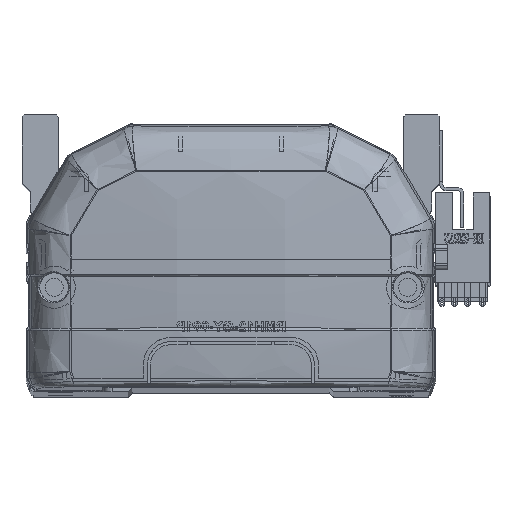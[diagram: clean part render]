
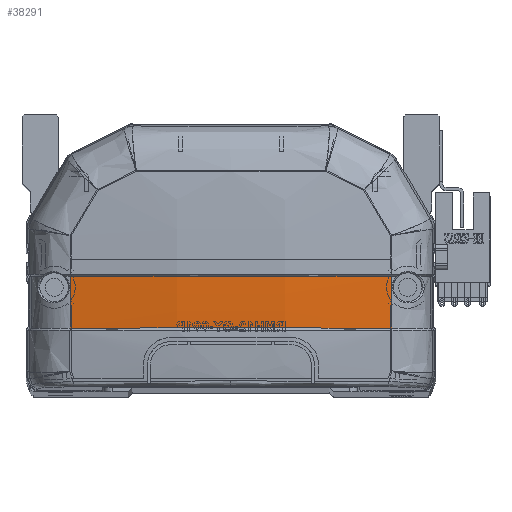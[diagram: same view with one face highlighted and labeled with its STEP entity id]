
A CAD part, top view. The second image highlights one B-rep face of the part: STEP entity #38291.
In plain terms, the highlighted free-form (B-spline) face has degree [3, 3] with [4, 4] control points.
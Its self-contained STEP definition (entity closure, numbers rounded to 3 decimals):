
#386 = VERTEX_POINT ( 'NONE', #37833 ) ;
#2493 = CARTESIAN_POINT ( 'NONE',  ( 13.598, 24.342, -10.47 ) ) ;
#3043 = CARTESIAN_POINT ( 'NONE',  ( 39.963, 28.706, -6.372 ) ) ;
#5665 = EDGE_CURVE ( 'NONE', #53407, #386, #52403, .T. ) ;
#7252 = CARTESIAN_POINT ( 'NONE',  ( 40.461, 28.832, -6.296 ) ) ;
#7994 = CARTESIAN_POINT ( 'NONE',  ( 13.375, 28.707, -9.468 ) ) ;
#12968 = EDGE_LOOP ( 'NONE', ( #25649, #54528, #40077, #43687 ) ) ;
#14074 = CARTESIAN_POINT ( 'NONE',  ( 39.985, 15.83, -5.879 ) ) ;
#17513 = CARTESIAN_POINT ( 'NONE',  ( -39.985, 15.83, -5.879 ) ) ;
#17615 = CARTESIAN_POINT ( 'NONE',  ( -13.373, 28.707, -9.468 ) ) ;
#18098 = CARTESIAN_POINT ( 'NONE',  ( -39.985, 15.83, -5.879 ) ) ;
#19580 = VERTEX_POINT ( 'NONE', #38667 ) ;
#21668 = EDGE_CURVE ( 'NONE', #53407, #42644, #39111, .T. ) ;
#22109 = EDGE_CURVE ( 'NONE', #19580, #386, #38704, .T. ) ;
#23809 = CARTESIAN_POINT ( 'NONE',  ( 39.963, 28.706, -6.372 ) ) ;
#24239 = CARTESIAN_POINT ( 'NONE',  ( 13.38, 15.83, -8.984 ) ) ;
#24615 = CARTESIAN_POINT ( 'NONE',  ( -13.384, 15.83, -8.724 ) ) ;
#24993 = CARTESIAN_POINT ( 'NONE',  ( -13.598, 24.342, -10.47 ) ) ;
#25649 = ORIENTED_EDGE ( 'NONE', *, *, #5665, .T. ) ;
#25887 = EDGE_CURVE ( 'NONE', #19580, #42644, #53606, .T. ) ;
#29802 = CARTESIAN_POINT ( 'NONE',  ( -40.461, 20.111, -6.066 ) ) ;
#29995 = CARTESIAN_POINT ( 'NONE',  ( -40.461, 24.47, -6.231 ) ) ;
#30732 = CARTESIAN_POINT ( 'NONE',  ( -26.748, 28.706, -8.432 ) ) ;
#33020 = CARTESIAN_POINT ( 'NONE',  ( -36.679, 15.83, -6.395 ) ) ;
#34395 = CARTESIAN_POINT ( 'NONE',  ( -13.598, 28.769, -10.535 ) ) ;
#36635 =( BOUNDED_SURFACE ( )  B_SPLINE_SURFACE ( 3, 3, ( 
 ( #55755, #41992, #43759, #7252 ),
 ( #38415, #38613, #2493, #57303 ),
 ( #48322, #47537, #24993, #34395 ),
 ( #57102, #29802, #29995, #39211 ) ),
 .UNSPECIFIED., .F., .F., .F. ) 
 B_SPLINE_SURFACE_WITH_KNOTS ( ( 4, 4 ),
 ( 4, 4 ),
 ( 0., 1. ),
 ( 0., 1. ),
 .UNSPECIFIED. ) 
 GEOMETRIC_REPRESENTATION_ITEM ( )  RATIONAL_B_SPLINE_SURFACE ( (
 ( 1., 1., 1., 1.),
 ( 0.992, 0.992, 0.992, 0.992),
 ( 0.992, 0.992, 0.992, 0.992),
 ( 1., 1., 1., 1.) ) ) 
 REPRESENTATION_ITEM ( '' )  SURFACE ( )  );
#37833 = CARTESIAN_POINT ( 'NONE',  ( 39.963, 28.706, -6.372 ) ) ;
#38015 = CARTESIAN_POINT ( 'NONE',  ( 39.985, 15.83, -5.879 ) ) ;
#38291 = ADVANCED_FACE ( 'NONE', ( #48401 ), #36635, .F. ) ;
#38415 = CARTESIAN_POINT ( 'NONE',  ( 13.598, 15.499, -10.032 ) ) ;
#38613 = CARTESIAN_POINT ( 'NONE',  ( 13.598, 19.918, -10.302 ) ) ;
#38667 = CARTESIAN_POINT ( 'NONE',  ( -39.963, 28.706, -6.372 ) ) ;
#38704 = B_SPLINE_CURVE_WITH_KNOTS ( 'NONE', 3,
 ( #44480, #30732, #17615, #7994, #49479, #3043 ),
 .UNSPECIFIED., .F., .F.,
 ( 4, 2, 4 ),
 ( 0., 0.5, 1. ),
 .UNSPECIFIED. ) ;
#39111 = B_SPLINE_CURVE_WITH_KNOTS ( 'NONE', 3,
 ( #38015, #56324, #24239, #51555, #24615, #41986, #46555, #55749, #33020, #46753 ),
 .UNSPECIFIED., .F., .F.,
 ( 4, 2, 2, 2, 4 ),
 ( 0., 0.04, 0.06, 0.07, 0.08 ),
 .UNSPECIFIED. ) ;
#39211 = CARTESIAN_POINT ( 'NONE',  ( -40.461, 28.832, -6.296 ) ) ;
#40077 = ORIENTED_EDGE ( 'NONE', *, *, #25887, .T. ) ;
#40781 = CARTESIAN_POINT ( 'NONE',  ( 39.966, 24.413, -6.306 ) ) ;
#40791 = CARTESIAN_POINT ( 'NONE',  ( -39.963, 28.706, -6.372 ) ) ;
#41986 = CARTESIAN_POINT ( 'NONE',  ( -23.389, 15.83, -7.947 ) ) ;
#41992 = CARTESIAN_POINT ( 'NONE',  ( 40.461, 20.111, -6.066 ) ) ;
#42644 = VERTEX_POINT ( 'NONE', #18098 ) ;
#43687 = ORIENTED_EDGE ( 'NONE', *, *, #21668, .F. ) ;
#43759 = CARTESIAN_POINT ( 'NONE',  ( 40.461, 24.47, -6.231 ) ) ;
#44480 = CARTESIAN_POINT ( 'NONE',  ( -39.963, 28.706, -6.372 ) ) ;
#46555 = CARTESIAN_POINT ( 'NONE',  ( -26.721, 15.83, -7.624 ) ) ;
#46753 = CARTESIAN_POINT ( 'NONE',  ( -39.985, 15.83, -5.879 ) ) ;
#47537 = CARTESIAN_POINT ( 'NONE',  ( -13.598, 19.918, -10.302 ) ) ;
#48322 = CARTESIAN_POINT ( 'NONE',  ( -13.598, 15.499, -10.032 ) ) ;
#48401 = FACE_OUTER_BOUND ( 'NONE', #12968, .T. ) ;
#49479 = CARTESIAN_POINT ( 'NONE',  ( 26.749, 28.706, -8.432 ) ) ;
#51555 = CARTESIAN_POINT ( 'NONE',  ( -6.692, 15.83, -8.984 ) ) ;
#52403 = B_SPLINE_CURVE_WITH_KNOTS ( 'NONE', 3,
 ( #14074, #58721, #40781, #23809 ),
 .UNSPECIFIED., .F., .F.,
 ( 4, 4 ),
 ( 0., 1. ),
 .UNSPECIFIED. ) ;
#53407 = VERTEX_POINT ( 'NONE', #53919 ) ;
#53606 = B_SPLINE_CURVE_WITH_KNOTS ( 'NONE', 3,
 ( #40791, #54551, #54150, #17513 ),
 .UNSPECIFIED., .F., .F.,
 ( 4, 4 ),
 ( 0., 1. ),
 .UNSPECIFIED. ) ;
#53919 = CARTESIAN_POINT ( 'NONE',  ( 39.985, 15.83, -5.879 ) ) ;
#54150 = CARTESIAN_POINT ( 'NONE',  ( -39.973, 20.118, -6.142 ) ) ;
#54528 = ORIENTED_EDGE ( 'NONE', *, *, #22109, .F. ) ;
#54551 = CARTESIAN_POINT ( 'NONE',  ( -39.966, 24.412, -6.306 ) ) ;
#55749 = CARTESIAN_POINT ( 'NONE',  ( -33.365, 15.83, -6.848 ) ) ;
#55755 = CARTESIAN_POINT ( 'NONE',  ( 40.461, 15.757, -5.8 ) ) ;
#56324 = CARTESIAN_POINT ( 'NONE',  ( 26.761, 15.83, -7.945 ) ) ;
#57102 = CARTESIAN_POINT ( 'NONE',  ( -40.461, 15.757, -5.8 ) ) ;
#57303 = CARTESIAN_POINT ( 'NONE',  ( 13.598, 28.769, -10.535 ) ) ;
#58721 = CARTESIAN_POINT ( 'NONE',  ( 39.973, 20.12, -6.142 ) ) ;
